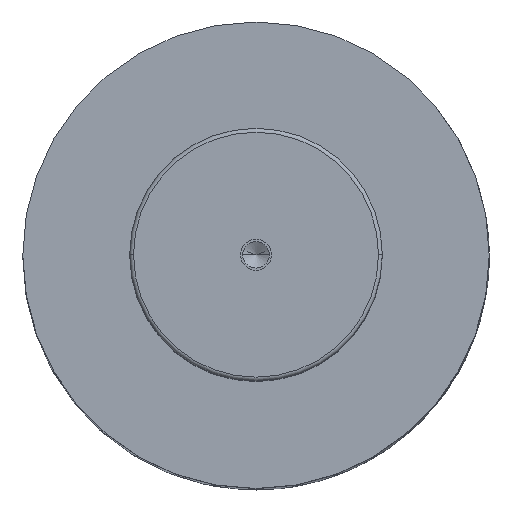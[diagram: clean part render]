
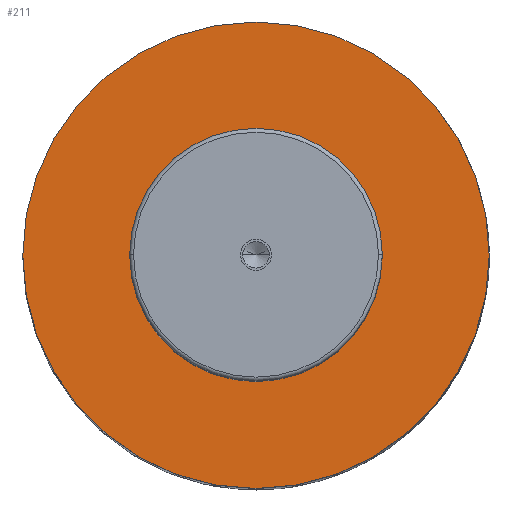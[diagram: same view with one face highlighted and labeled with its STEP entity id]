
A CAD part, top view. The second image highlights one B-rep face of the part: STEP entity #211.
In plain terms, the highlighted planar face has unit normal (0, 0, 1).
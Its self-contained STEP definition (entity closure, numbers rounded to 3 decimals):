
#109=PLANE('',#1266);
#138=FACE_BOUND('',#359,.T.);
#139=FACE_BOUND('',#360,.T.);
#211=ADVANCED_FACE('',(#138,#139),#109,.T.);
#359=EDGE_LOOP('',(#571,#572));
#360=EDGE_LOOP('',(#573,#574));
#451=CIRCLE('',#1260,32.5);
#452=CIRCLE('',#1262,32.5);
#453=CIRCLE('',#1264,60.);
#454=CIRCLE('',#1265,60.);
#571=ORIENTED_EDGE('',*,*,#970,.F.);
#572=ORIENTED_EDGE('',*,*,#971,.F.);
#573=ORIENTED_EDGE('',*,*,#969,.T.);
#574=ORIENTED_EDGE('',*,*,#967,.T.);
#856=VERTEX_POINT('',#1837);
#857=VERTEX_POINT('',#1839);
#858=VERTEX_POINT('',#1845);
#859=VERTEX_POINT('',#1846);
#967=EDGE_CURVE('',#857,#856,#451,.T.);
#969=EDGE_CURVE('',#856,#857,#452,.T.);
#970=EDGE_CURVE('',#858,#859,#453,.T.);
#971=EDGE_CURVE('',#859,#858,#454,.T.);
#1260=AXIS2_PLACEMENT_3D('',#1838,#1456,#1457);
#1262=AXIS2_PLACEMENT_3D('',#1842,#1461,#1462);
#1264=AXIS2_PLACEMENT_3D('',#1844,#1465,#1466);
#1265=AXIS2_PLACEMENT_3D('',#1847,#1467,#1468);
#1266=AXIS2_PLACEMENT_3D('',#1848,#1469,#1470);
#1456=DIRECTION('',(0.,0.,-1.));
#1457=DIRECTION('',(0.,1.,0.));
#1461=DIRECTION('',(0.,0.,-1.));
#1462=DIRECTION('',(0.,-1.,0.));
#1465=DIRECTION('',(0.,0.,-1.));
#1466=DIRECTION('',(0.,1.,0.));
#1467=DIRECTION('',(0.,0.,-1.));
#1468=DIRECTION('',(0.,-1.,0.));
#1469=DIRECTION('',(0.,0.,1.));
#1470=DIRECTION('',(0.,-1.,0.));
#1837=CARTESIAN_POINT('',(-32.5,0.,217.));
#1838=CARTESIAN_POINT('',(0.,0.,217.));
#1839=CARTESIAN_POINT('',(32.5,0.,217.));
#1842=CARTESIAN_POINT('',(0.,0.,217.));
#1844=CARTESIAN_POINT('',(0.,0.,217.));
#1845=CARTESIAN_POINT('',(60.,0.,217.));
#1846=CARTESIAN_POINT('',(-60.,0.,217.));
#1847=CARTESIAN_POINT('',(0.,0.,217.));
#1848=CARTESIAN_POINT('',(0.,0.,217.));
